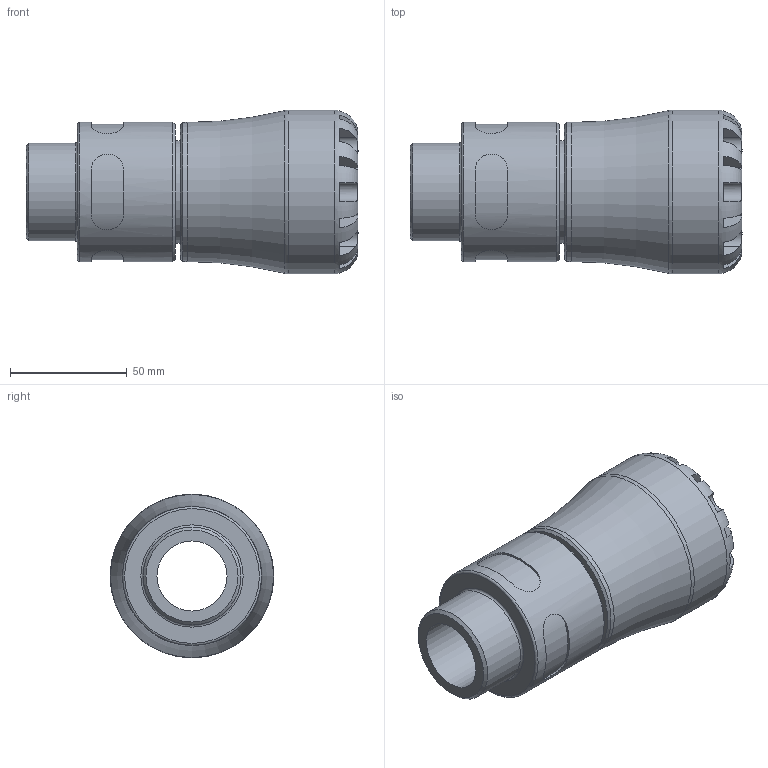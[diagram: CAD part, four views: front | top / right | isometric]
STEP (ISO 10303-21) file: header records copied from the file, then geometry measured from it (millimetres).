
FILE_DESCRIPTION(/* description */ ('PLASSON MALE ADAPTOR 40X1.1/4" SERIES 1'),/* implementation_level */ '2;1');
FILE_NAME(/* name */ 'C:\Dropbox\KIMPROJECTS-Inventor 2019\99-16-3568-Processing\S1\10N20\stp\10N200040013_10N2G0040013.stp',/* time_stamp */ '2024-03-12T13:19:44+01:00',/* author */ ('KIM'),/* organization */ (''),/* preprocessor_version */ 'ST-DEVELOPER v17.2',/* originating_system */ 'Autodesk Inventor 2019',/* authorisation */ '');
FILE_SCHEMA (('AUTOMOTIVE_DESIGN { 1 0 10303 214 3 1 1 }'));
Length unit declared in the file: millimetre
Products named in the file (1): 10N200040013_10N2G0040013
Bounding box: 142 x 70 x 70 mm (x, y, z)
Volume: 257365.1 mm3; surface area: 50868.2 mm2
Topology: 1 solids, 1 shells, 106 faces, 279 edges, 182 vertices
Faces by surface type: plane 62, cylinder 35, torus 5, cone 4
Full cylindrical faces by diameter (mm): 30 x1, 40 x1, 41.91 x1, 44 x1, 59.5 x2, 70 x1
Entity records: 4222 total; most frequent: CARTESIAN_POINT 1488, ORIENTED_EDGE 558, DIRECTION 552, EDGE_CURVE 279, AXIS2_PLACEMENT_3D 230, VERTEX_POINT 182, CIRCLE 123, EDGE_LOOP 115
